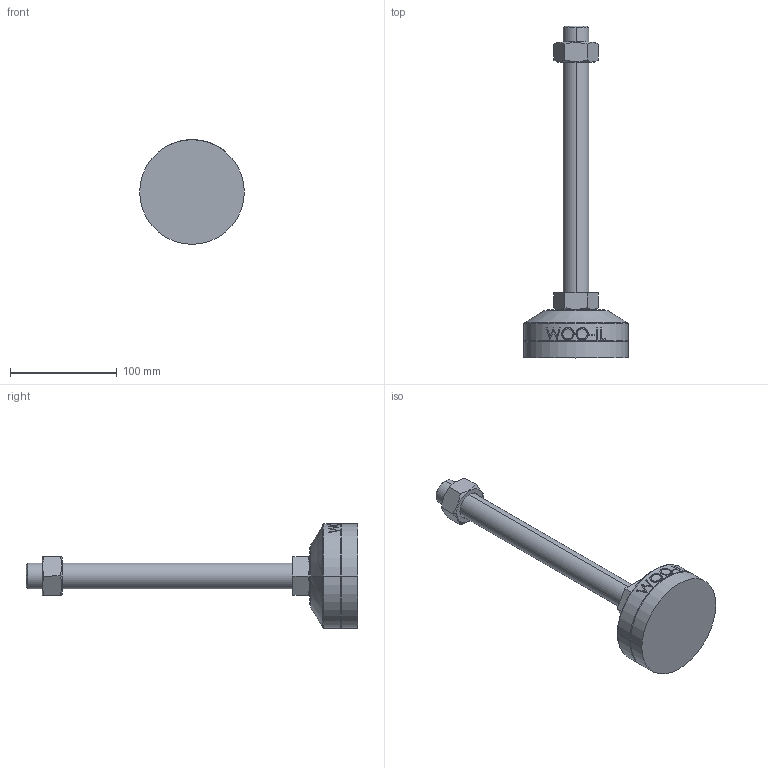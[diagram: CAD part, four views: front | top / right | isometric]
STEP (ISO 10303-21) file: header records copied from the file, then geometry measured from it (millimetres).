
FILE_DESCRIPTION (( 'STEP AP214' ), '1' );
FILE_NAME ('MFR98-M24-250.step', '2021-01-13T05:41:06', ( '' ), ( '' ), 'SwSTEP 2.0', 'SolidWorks 2019', '' );
FILE_SCHEMA (( 'AUTOMOTIVE_DESIGN' ));
Length unit declared in the file: millimetre
Products named in the file (2): MFR98-M24-250
Bounding box: 98 x 311 x 98 mm (x, y, z)
Volume: 448077.3 mm3; surface area: 68834 mm2
Topology: 4 solids, 4 shells, 103 faces, 235 edges, 150 vertices
Faces by surface type: plane 49, cylinder 18, bspline 16, cone 14, torus 6
Entity records: 4617 total; most frequent: CARTESIAN_POINT 2344, ORIENTED_EDGE 470, DIRECTION 417, EDGE_CURVE 235, AXIS2_PLACEMENT_3D 159, VERTEX_POINT 150, EDGE_LOOP 115, ADVANCED_FACE 103
